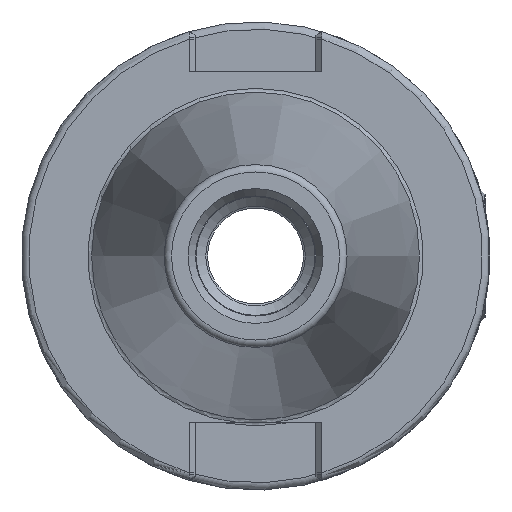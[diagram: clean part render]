
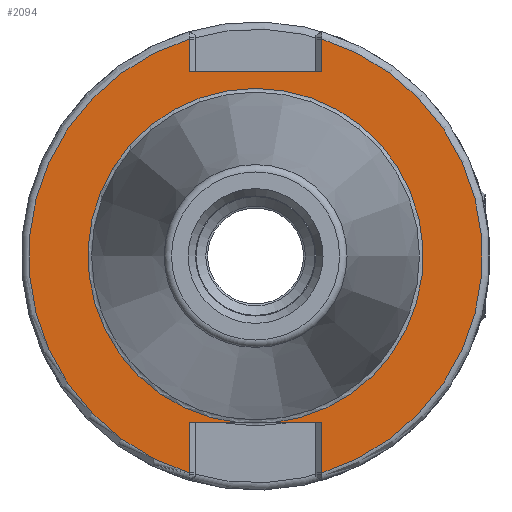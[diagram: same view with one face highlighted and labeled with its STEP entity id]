
A CAD part, left-side view. The second image highlights one B-rep face of the part: STEP entity #2094.
In plain terms, the highlighted planar face has unit normal (-1, 0, 0).
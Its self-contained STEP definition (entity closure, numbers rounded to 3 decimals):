
#172=CIRCLE('',#2318,30.75);
#173=CIRCLE('',#2320,22.725);
#174=CIRCLE('',#2321,22.725);
#175=CIRCLE('',#2322,30.75);
#285=FACE_OUTER_BOUND('',#420,.T.);
#420=EDGE_LOOP('',(#1572,#1573,#1574,#1575,#1576,#1577,#1578,#1579,#1580,
#1581,#1582));
#532=LINE('',#3376,#668);
#547=LINE('',#3494,#683);
#549=LINE('',#3572,#685);
#550=LINE('',#3578,#686);
#551=LINE('',#3580,#687);
#552=LINE('',#3583,#688);
#553=LINE('',#3584,#689);
#668=VECTOR('',#2622,10.);
#683=VECTOR('',#2643,10.);
#685=VECTOR('',#2665,10.);
#686=VECTOR('',#2670,10.);
#687=VECTOR('',#2671,10.);
#688=VECTOR('',#2674,10.);
#689=VECTOR('',#2675,10.);
#896=VERTEX_POINT('',#3374);
#897=VERTEX_POINT('',#3375);
#911=VERTEX_POINT('',#3487);
#914=VERTEX_POINT('',#3492);
#921=VERTEX_POINT('',#3551);
#923=VERTEX_POINT('',#3571);
#924=VERTEX_POINT('',#3573);
#925=VERTEX_POINT('',#3575);
#926=VERTEX_POINT('',#3577);
#927=VERTEX_POINT('',#3579);
#928=VERTEX_POINT('',#3581);
#1129=EDGE_CURVE('',#896,#897,#532,.T.);
#1148=EDGE_CURVE('',#914,#911,#547,.T.);
#1160=EDGE_CURVE('',#911,#921,#172,.T.);
#1163=EDGE_CURVE('',#914,#923,#549,.T.);
#1164=EDGE_CURVE('',#923,#924,#173,.T.);
#1165=EDGE_CURVE('',#924,#925,#174,.T.);
#1166=EDGE_CURVE('',#925,#926,#550,.T.);
#1167=EDGE_CURVE('',#927,#926,#551,.T.);
#1168=EDGE_CURVE('',#928,#927,#175,.T.);
#1169=EDGE_CURVE('',#896,#928,#552,.T.);
#1170=EDGE_CURVE('',#921,#897,#553,.T.);
#1572=ORIENTED_EDGE('',*,*,#1148,.F.);
#1573=ORIENTED_EDGE('',*,*,#1163,.T.);
#1574=ORIENTED_EDGE('',*,*,#1164,.T.);
#1575=ORIENTED_EDGE('',*,*,#1165,.T.);
#1576=ORIENTED_EDGE('',*,*,#1166,.T.);
#1577=ORIENTED_EDGE('',*,*,#1167,.F.);
#1578=ORIENTED_EDGE('',*,*,#1168,.F.);
#1579=ORIENTED_EDGE('',*,*,#1169,.F.);
#1580=ORIENTED_EDGE('',*,*,#1129,.T.);
#1581=ORIENTED_EDGE('',*,*,#1170,.F.);
#1582=ORIENTED_EDGE('',*,*,#1160,.F.);
#2016=PLANE('',#2319);
#2094=ADVANCED_FACE('',(#285),#2016,.T.);
#2318=AXIS2_PLACEMENT_3D('',#3552,#2661,#2662);
#2319=AXIS2_PLACEMENT_3D('',#3570,#2663,#2664);
#2320=AXIS2_PLACEMENT_3D('',#3574,#2666,#2667);
#2321=AXIS2_PLACEMENT_3D('',#3576,#2668,#2669);
#2322=AXIS2_PLACEMENT_3D('',#3582,#2672,#2673);
#2622=DIRECTION('',(0.,1.,0.));
#2643=DIRECTION('',(0.,0.,-1.));
#2661=DIRECTION('center_axis',(1.,0.,0.));
#2662=DIRECTION('ref_axis',(0.,0.,-1.));
#2663=DIRECTION('center_axis',(-1.,0.,0.));
#2664=DIRECTION('ref_axis',(0.,0.,1.));
#2665=DIRECTION('',(0.,-1.,0.));
#2666=DIRECTION('center_axis',(1.,0.,0.));
#2667=DIRECTION('ref_axis',(0.,0.,-1.));
#2668=DIRECTION('center_axis',(1.,0.,0.));
#2669=DIRECTION('ref_axis',(0.,0.,-1.));
#2670=DIRECTION('',(0.,-1.,0.));
#2671=DIRECTION('',(0.,0.,1.));
#2672=DIRECTION('center_axis',(1.,0.,0.));
#2673=DIRECTION('ref_axis',(0.,0.,-1.));
#2674=DIRECTION('',(0.,0.,1.));
#2675=DIRECTION('',(0.,0.,-1.));
#3374=CARTESIAN_POINT('',(3.175,-8.992,25.019));
#3375=CARTESIAN_POINT('',(3.175,8.992,25.019));
#3376=CARTESIAN_POINT('',(3.175,19.471,25.019));
#3487=CARTESIAN_POINT('',(3.175,8.992,-29.406));
#3492=CARTESIAN_POINT('',(3.175,8.992,-22.606));
#3494=CARTESIAN_POINT('',(3.175,8.992,-11.303));
#3551=CARTESIAN_POINT('',(3.175,8.992,29.406));
#3552=CARTESIAN_POINT('Origin',(3.175,0.,0.));
#3570=CARTESIAN_POINT('Origin',(3.175,30.75,0.));
#3571=CARTESIAN_POINT('',(3.175,2.323,-22.606));
#3572=CARTESIAN_POINT('',(3.175,11.279,-22.606));
#3573=CARTESIAN_POINT('',(3.175,0.,22.725));
#3574=CARTESIAN_POINT('Origin',(3.175,0.,0.));
#3575=CARTESIAN_POINT('',(3.175,-2.323,-22.606));
#3576=CARTESIAN_POINT('Origin',(3.175,0.,0.));
#3577=CARTESIAN_POINT('',(3.175,-8.991,-22.606));
#3578=CARTESIAN_POINT('',(3.175,11.279,-22.606));
#3579=CARTESIAN_POINT('',(3.175,-8.991,-29.406));
#3580=CARTESIAN_POINT('',(3.175,-8.991,-17.303));
#3581=CARTESIAN_POINT('',(3.175,-8.992,29.406));
#3582=CARTESIAN_POINT('Origin',(3.175,0.,0.));
#3583=CARTESIAN_POINT('',(3.175,-8.992,12.51));
#3584=CARTESIAN_POINT('',(3.175,8.992,17.51));
